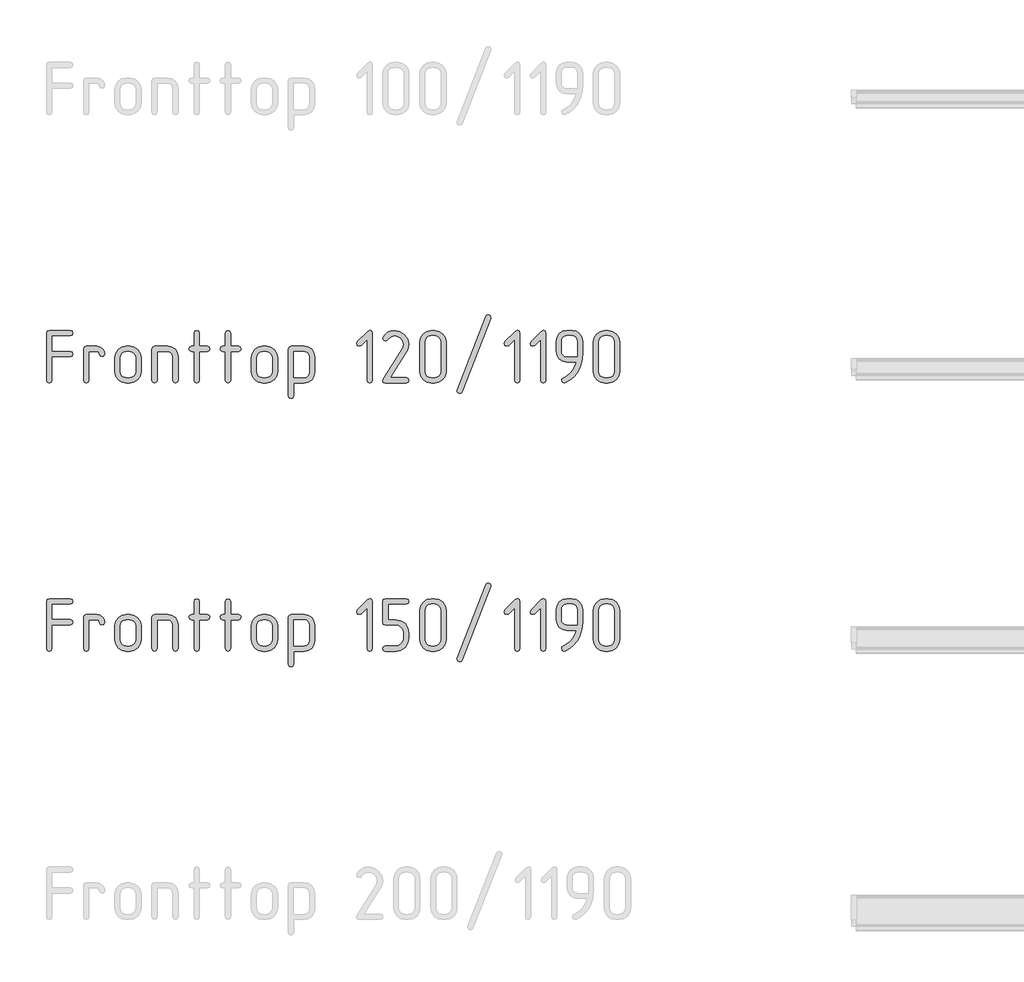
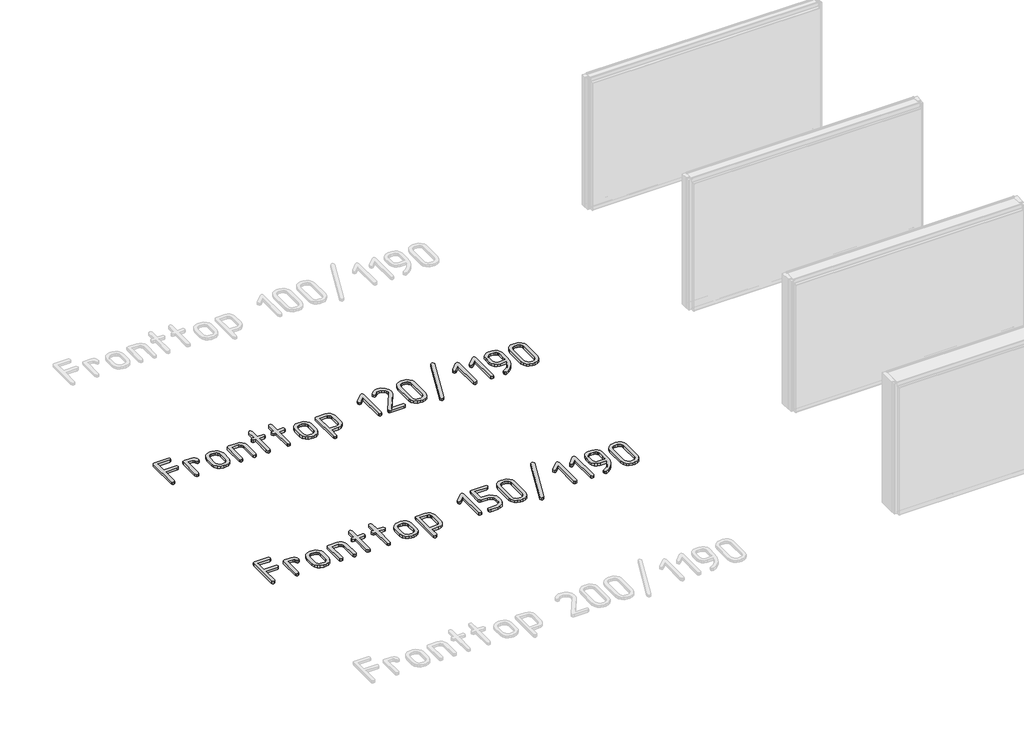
# One storey, part 15 of 37: 2 proxies.
"""IFC4 building model written with IfcOpenShell, lengths in millimetres."""

from ifc_helpers import new_model, si_unit, origin, origin_with_axes, place, context, project, spatial, polyline, outline, extrude, element, save

model = new_model("IFC4")

# Units and contexts
model_context = context("Model", 3, world=origin())
ifc_project = project(units=[si_unit("LENGTHUNIT", "METRE", prefix="MILLI")], contexts=[model_context])

# Site, building, storey
site = spatial("IfcSite", under=ifc_project)
building = spatial("IfcBuilding", under=site)
storey = spatial("IfcBuildingStorey", under=building, Name="Этаж 01", Elevation=0.0)

# Proxies
placement = place(None, origin())
element("IfcBuildingElementProxy", 1, Name="300 мм ГОСТ 2.304", ObjectType="300 мм ГОСТ 2.304", at=placement, inside=storey, context=model_context, shape_type="SweptSolid", body=[
    extrude(outline(polyline([(56161.9989869, -26551.9738322), (56264.4173344, -26551.9738322), (56275.3434297, -26556.0573223), (56278.9854614, -26566.5419592), (56275.1227005, -26577.0633842), (56264.4173344, -26581.5515446), (56161.9989869, -26581.5515446), (56161.9989869, -26713.5476044), (56157.9154968, -26724.4736997), (56147.4308599, -26728.1157314), (56136.9094349, -26724.2529705), (56132.4212745, -26713.5476044), (56132.4212745, -26449.9969431), (56136.1736709, -26438.739754), (56147.4308599, -26434.9873577), (56264.4173344, -26434.9873577), (56275.3434297, -26439.291577), (56278.9854614, -26449.9969431), (56275.1227005, -26460.0769098), (56264.4173344, -26464.5650701), (56161.9989869, -26464.5650701), (56161.9989869, -26551.9738322)])), origin_with_axes(), (0.0, 0.0, 1.0), 20.0),
    extrude(outline(polyline([(56457.0403471, -26566.9834176), (56452.9568569, -26577.9095128), (56442.4722201, -26581.5515446), (56431.950795, -26577.6887836), (56427.4626347, -26566.9834176), (56423.3791445, -26556.7195099), (56412.8945077, -26552.4152905), (56369.1901266, -26552.4152905), (56369.1901266, -26713.5476044), (56365.1066365, -26724.4736997), (56354.6219996, -26728.1157314), (56344.1005746, -26724.2529705), (56339.6124142, -26713.5476044), (56339.6124142, -26537.8471635), (56343.3648106, -26526.9210683), (56354.6219996, -26523.2790365), (56412.8945077, -26523.2790365), (56430.0378086, -26526.7003391), (56444.2012654, -26536.1181182), (56453.6190445, -26550.0608458), (56457.0403471, -26566.9834176)])), origin_with_axes(), (0.0, 0.0, 1.0), 20.0),
    extrude(outline(polyline([(56660.405514, -26663.8099587), (56655.6966245, -26688.7891462), (56641.5699559, -26709.7216317), (56620.9685641, -26723.5172065), (56596.0997413, -26728.1157314), (56578.5149819, -26728.1157314), (56553.5909767, -26723.5172065), (56532.6768853, -26709.7216317), (56518.5502167, -26688.7891462), (56513.8413271, -26663.8099587), (56513.8413271, -26587.5848093), (56518.5502167, -26562.9367156), (56532.6768853, -26542.1145947), (56553.9956469, -26527.9879261), (56578.5149819, -26523.2790365), (56596.0997413, -26523.2790365), (56620.7386379, -26527.9971231), (56641.5331677, -26542.1513829), (56655.6874274, -26562.9459127), (56660.405514, -26587.5848093), (56660.405514, -26663.8099587)]), holes=[polyline([(56631.26926, -26663.8099587), (56631.26926, -26587.5848093), (56628.694086, -26574.0835401), (56620.9685641, -26562.7159864), (56609.6010105, -26554.9904645), (56596.0997413, -26552.4152905), (56578.5149819, -26552.4152905), (56565.0229097, -26554.9904645), (56553.6829472, -26562.7159864), (56545.9850165, -26574.0835401), (56543.4190395, -26587.5848093), (56543.4190395, -26663.8099587), (56545.9850165, -26677.3112279), (56553.6829472, -26688.6787816), (56565.0229097, -26696.4043035), (56578.5149819, -26698.9794774), (56596.0997413, -26698.9794774), (56609.6010105, -26696.4043035), (56620.9685641, -26688.6787816), (56628.694086, -26677.3112279), (56631.26926, -26663.8099587)])]), origin_with_axes(), (0.0, 0.0, 1.0), 20.0),
    extrude(outline(polyline([(56867.5966537, -26713.5476044), (56863.5131635, -26724.4736997), (56853.0285267, -26728.1157314), (56842.7278308, -26724.2529705), (56838.4603997, -26713.5476044), (56838.4603997, -26581.5515446), (56836.3174871, -26570.4139172), (56829.8887492, -26560.986941), (56820.3514085, -26554.5582032), (56808.8826873, -26552.4152905), (56750.6101792, -26552.4152905), (56750.6101792, -26713.5476044), (56746.5266891, -26724.4736997), (56736.0420522, -26728.1157314), (56725.5206272, -26724.2529705), (56721.0324668, -26713.5476044), (56721.0324668, -26537.8471635), (56724.7848632, -26526.9210683), (56736.0420522, -26523.2790365), (56808.8826873, -26523.2790365), (56831.7097651, -26527.4544972), (56850.4533527, -26539.9808791), (56863.3108285, -26558.945196), (56867.5966537, -26581.5515446), (56867.5966537, -26713.5476044)])), origin_with_axes(), (0.0, 0.0, 1.0), 20.0),
    extrude(outline(polyline([(56986.9375729, -26523.2790365), (57031.0834124, -26523.2790365), (57042.0095076, -26527.3625267), (57045.6515394, -26537.8471635), (57041.7887784, -26547.9271302), (57031.0834124, -26552.4152905), (56986.9375729, -26552.4152905), (56986.9375729, -26713.5476044), (56982.8540828, -26724.4736997), (56972.3694459, -26728.1157314), (56962.0687501, -26724.2529705), (56957.8013189, -26713.5476044), (56957.8013189, -26552.4152905), (56943.2331919, -26552.4152905), (56932.3070966, -26548.1478594), (56928.2236065, -26537.8471635), (56932.0863675, -26527.5832559), (56943.2331919, -26523.2790365), (56957.8013189, -26523.2790365), (56957.8013189, -26449.9969431), (56962.0687501, -26439.0708478), (56972.3694459, -26434.9873577), (56982.6333536, -26438.8501186), (56986.9375729, -26449.9969431), (56986.9375729, -26523.2790365)])), origin_with_axes(), (0.0, 0.0, 1.0), 20.0),
    extrude(outline(polyline([(57161.1664858, -26523.2790365), (57205.3123253, -26523.2790365), (57216.2384205, -26527.3625267), (57219.8804523, -26537.8471635), (57216.0176913, -26547.9271302), (57205.3123253, -26552.4152905), (57161.1664858, -26552.4152905), (57161.1664858, -26713.5476044), (57157.0829957, -26724.4736997), (57146.5983588, -26728.1157314), (57136.297663, -26724.2529705), (57132.0302318, -26713.5476044), (57132.0302318, -26552.4152905), (57117.4621048, -26552.4152905), (57106.5360096, -26548.1478594), (57102.4525194, -26537.8471635), (57106.3152804, -26527.5832559), (57117.4621048, -26523.2790365), (57132.0302318, -26523.2790365), (57132.0302318, -26449.9969431), (57136.297663, -26439.0708478), (57146.5983588, -26434.9873577), (57156.8622665, -26438.8501186), (57161.1664858, -26449.9969431), (57161.1664858, -26523.2790365)])), origin_with_axes(), (0.0, 0.0, 1.0), 20.0),
    extrude(outline(polyline([(57423.2456192, -26663.8099587), (57418.5367297, -26688.7891462), (57404.4100611, -26709.7216317), (57383.8086693, -26723.5172065), (57358.9398465, -26728.1157314), (57341.3550871, -26728.1157314), (57316.4310819, -26723.5172065), (57295.5169905, -26709.7216317), (57281.3903219, -26688.7891462), (57276.6814323, -26663.8099587), (57276.6814323, -26587.5848093), (57281.3903219, -26562.9367156), (57295.5169905, -26542.1145947), (57316.8357521, -26527.9879261), (57341.3550871, -26523.2790365), (57358.9398465, -26523.2790365), (57383.5787431, -26527.9971231), (57404.3732729, -26542.1513829), (57418.5275326, -26562.9459127), (57423.2456192, -26587.5848093), (57423.2456192, -26663.8099587)]), holes=[polyline([(57394.1093652, -26663.8099587), (57394.1093652, -26587.5848093), (57391.5341912, -26574.0835401), (57383.8086693, -26562.7159864), (57372.4411157, -26554.9904645), (57358.9398465, -26552.4152905), (57341.3550871, -26552.4152905), (57327.8630149, -26554.9904645), (57316.5230524, -26562.7159864), (57308.8251217, -26574.0835401), (57306.2591447, -26587.5848093), (57306.2591447, -26663.8099587), (57308.8251217, -26677.3112279), (57316.5230524, -26688.6787816), (57327.8630149, -26696.4043035), (57341.3550871, -26698.9794774), (57358.9398465, -26698.9794774), (57372.4411157, -26696.4043035), (57383.8086693, -26688.6787816), (57391.5341912, -26677.3112279), (57394.1093652, -26663.8099587)])]), origin_with_axes(), (0.0, 0.0, 1.0), 20.0),
    extrude(outline(polyline([(57513.4502844, -26728.1157314), (57513.4502844, -26801.3978249), (57509.3667943, -26812.3239201), (57498.8821574, -26815.9659519), (57488.3607324, -26812.1031909), (57483.872572, -26801.3978249), (57483.872572, -26537.8471635), (57487.6249684, -26526.9210683), (57498.8821574, -26523.2790365), (57571.7227925, -26523.2790365), (57594.5498703, -26527.4544972), (57613.2934579, -26539.9808791), (57626.1509337, -26558.945196), (57630.4367589, -26581.5515446), (57630.4367589, -26669.401765), (57626.1509337, -26692.3392074), (57613.2934579, -26711.4138889), (57594.5498703, -26723.9402708), (57571.7227925, -26728.1157314), (57513.4502844, -26728.1157314)]), holes=[polyline([(57513.4502844, -26698.9794774), (57571.7227925, -26698.9794774), (57583.1915137, -26696.8365648), (57592.7288544, -26690.4078269), (57599.1575923, -26680.8704862), (57601.3005049, -26669.401765), (57601.3005049, -26581.5515446), (57599.1575923, -26570.4139172), (57592.7288544, -26560.986941), (57583.1915137, -26554.5582032), (57571.7227925, -26552.4152905), (57513.4502844, -26552.4152905), (57513.4502844, -26698.9794774)])]), origin_with_axes(), (0.0, 0.0, 1.0), 20.0),
    extrude(outline(polyline([(57953.1428451, -26713.5476044), (57949.0593549, -26724.4736997), (57938.5747181, -26728.1157314), (57928.4947514, -26724.2529705), (57924.006591, -26713.5476044), (57924.006591, -26485.1664618), (57890.1614475, -26518.570147), (57880.30221, -26523.2790365), (57869.780785, -26518.7908762), (57865.2926246, -26508.2694511), (57870.0015142, -26498.0423317), (57928.2740222, -26439.6962472), (57941.149892, -26433.2951005), (57949.7215425, -26437.5993199), (57953.1428451, -26449.9969431), (57953.1428451, -26713.5476044)])), origin_with_axes(), (0.0, 0.0, 1.0), 20.0),
    extrude(outline(polyline([(58147.0902329, -26548.1478594), (58052.3974074, -26698.9794774), (58143.2642602, -26698.9794774), (58154.1903554, -26703.0629676), (58157.8323872, -26713.5476044), (58153.9696262, -26723.6275711), (58143.2642602, -26728.1157314), (58026.2777857, -26728.1157314), (58014.3584091, -26725.2278578), (58010.3852835, -26716.5642368), (58013.8433743, -26705.3806241), (58121.8535281, -26533.138274), (58127.371758, -26511.2860835), (58123.7297262, -26493.1862893), (58112.803631, -26478.3238567), (58096.3041235, -26468.0047668), (58076.8247718, -26464.5650701), (58054.9725813, -26470.5615466), (58038.2707387, -26486.858719), (58033.3595141, -26491.9906728), (58026.2777857, -26493.7013241), (58015.9770898, -26489.6546222), (58011.2682003, -26479.5746555), (58013.8433743, -26471.4076752), (58025.6339922, -26456.6923954), (58040.4044543, -26445.0673244), (58057.1062969, -26437.5073494), (58074.6910563, -26434.9873577), (58106.0713905, -26440.7814991), (58132.5221059, -26458.1639234), (58150.5115355, -26483.0327463), (58156.508012, -26512.1690003), (58154.1535672, -26530.5814941), (58147.0902329, -26548.1478594)])), origin_with_axes(), (0.0, 0.0, 1.0), 20.0),
    extrude(outline(polyline([(58365.0235269, -26663.8099587), (58360.3146373, -26688.7891462), (58346.1879687, -26709.7216317), (58325.586577, -26723.5172065), (58300.7177541, -26728.1157314), (58283.1329947, -26728.1157314), (58258.2089896, -26723.5172065), (58237.2948981, -26709.7216317), (58223.1682295, -26688.7891462), (58218.45934, -26663.8099587), (58218.45934, -26499.7345888), (58223.1682295, -26475.0864952), (58237.2948981, -26454.2643742), (58258.3929306, -26439.8066118), (58283.1329947, -26434.9873577), (58300.7177541, -26434.9873577), (58325.3566507, -26439.7054443), (58346.1511805, -26453.859704), (58360.3054403, -26474.7645984), (58365.0235269, -26499.7345888), (58365.0235269, -26663.8099587)]), holes=[polyline([(58335.8872728, -26663.8099587), (58335.8872728, -26499.7345888), (58333.3120989, -26486.2333196), (58325.586577, -26474.865766), (58314.2190233, -26467.1402441), (58300.7177541, -26464.5650701), (58283.1329947, -26464.5650701), (58269.6409226, -26467.1402441), (58258.3009601, -26474.865766), (58250.6030293, -26486.2333196), (58248.0370524, -26499.7345888), (58248.0370524, -26663.8099587), (58250.6030293, -26677.3112279), (58258.3009601, -26688.6787816), (58269.6409226, -26696.4043035), (58283.1329947, -26698.9794774), (58300.7177541, -26698.9794774), (58314.2190233, -26696.4043035), (58325.586577, -26688.6787816), (58333.3120989, -26677.3112279), (58335.8872728, -26663.8099587)])]), origin_with_axes(), (0.0, 0.0, 1.0), 20.0),
    extrude(outline(polyline([(58615.4775892, -26367.2970706), (58454.3452753, -26777.4119188), (58448.7902572, -26784.2545239), (58441.1015235, -26786.8296979), (58430.3593692, -26782.7462077), (58425.6504797, -26772.2615709), (58426.5333965, -26766.6697645), (58587.6657103, -26356.6284927), (58593.2207285, -26349.7123112), (58600.9094622, -26347.1371372), (58611.6516164, -26351.4413566), (58616.360506, -26361.7052642), (58615.4775892, -26367.2970706)])), origin_with_axes(), (0.0, 0.0, 1.0), 20.0),
    extrude(outline(polyline([(58777.1985143, -26713.5476044), (58773.1150241, -26724.4736997), (58762.6303873, -26728.1157314), (58752.5504206, -26724.2529705), (58748.0622602, -26713.5476044), (58748.0622602, -26485.1664618), (58714.2171167, -26518.570147), (58704.3578792, -26523.2790365), (58693.8364542, -26518.7908762), (58689.3482938, -26508.2694511), (58694.0571833, -26498.0423317), (58752.3296914, -26439.6962472), (58765.2055612, -26433.2951005), (58773.7772117, -26437.5993199), (58777.1985143, -26449.9969431), (58777.1985143, -26713.5476044)])), origin_with_axes(), (0.0, 0.0, 1.0), 20.0),
    extrude(outline(polyline([(58923.1740899, -26713.5476044), (58919.0905998, -26724.4736997), (58908.6059629, -26728.1157314), (58898.5259963, -26724.2529705), (58894.0378359, -26713.5476044), (58894.0378359, -26485.1664618), (58860.1926924, -26518.570147), (58850.3334549, -26523.2790365), (58839.8120298, -26518.7908762), (58835.3238695, -26508.2694511), (58840.032759, -26498.0423317), (58898.3052671, -26439.6962472), (58911.1811369, -26433.2951005), (58919.7527874, -26437.5993199), (58923.1740899, -26449.9969431), (58923.1740899, -26713.5476044)])), origin_with_axes(), (0.0, 0.0, 1.0), 20.0),
    extrude(outline(polyline([(59093.1355717, -26611.129257), (59040.0134116, -26611.129257), (59017.407063, -26606.8434317), (58998.4427462, -26593.985956), (58985.5852704, -26575.0216391), (58981.2994452, -26552.4152905), (58981.2994452, -26493.7013241), (58985.5852704, -26471.0949755), (58998.4427462, -26452.1306587), (59017.407063, -26439.2731829), (59040.0134116, -26434.9873577), (59069.1496656, -26434.9873577), (59091.9767434, -26439.2731829), (59110.7203311, -26452.1306587), (59123.5778068, -26471.0949755), (59127.8636321, -26493.7013241), (59127.8636321, -26566.5419592), (59124.0008711, -26607.818319), (59112.4125883, -26645.8573173), (59098.4422695, -26671.7378157), (59079.6343025, -26694.4913171), (59056.871604, -26713.1797224), (59031.0370909, -26726.8649327), (59025.0038262, -26728.1157314), (59014.9606477, -26723.4068419), (59010.8771576, -26712.6646876), (59013.0108732, -26705.1966831), (59019.8534783, -26699.8623942), (59040.7491756, -26688.8995108), (59058.8489698, -26674.1106546), (59073.7297965, -26655.8085253), (59084.9685914, -26634.3058227), (59089.309599, -26622.938269), (59093.1355717, -26611.129257)]), holes=[polyline([(59097.8444613, -26581.1468744), (59098.0651905, -26576.2172556), (59098.5066488, -26564.8864902), (59098.727378, -26539.9808791), (59098.727378, -26493.7013241), (59096.5844654, -26482.2877852), (59090.1557276, -26472.9159914), (59080.6183868, -26466.6528004), (59069.1496656, -26464.5650701), (59040.0134116, -26464.5650701), (59028.5998727, -26466.6528004), (59019.2280789, -26472.9159914), (59012.9648879, -26482.2877852), (59010.8771576, -26493.7013241), (59010.8771576, -26552.4152905), (59012.9648879, -26563.8288294), (59019.2280789, -26573.2006233), (59028.5998727, -26579.4638142), (59040.0134116, -26581.5515446), (59097.8444613, -26581.1468744)])]), origin_with_axes(), (0.0, 0.0, 1.0), 20.0),
    extrude(outline(polyline([(59335.0547717, -26663.8099587), (59330.3458822, -26688.7891462), (59316.2192136, -26709.7216317), (59295.6178219, -26723.5172065), (59270.748999, -26728.1157314), (59253.1642396, -26728.1157314), (59228.2402344, -26723.5172065), (59207.326143, -26709.7216317), (59193.1994744, -26688.7891462), (59188.4905849, -26663.8099587), (59188.4905849, -26499.7345888), (59193.1994744, -26475.0864952), (59207.326143, -26454.2643742), (59228.4241754, -26439.8066118), (59253.1642396, -26434.9873577), (59270.748999, -26434.9873577), (59295.3878956, -26439.7054443), (59316.1824254, -26453.859704), (59330.3366852, -26474.7645984), (59335.0547717, -26499.7345888), (59335.0547717, -26663.8099587)]), holes=[polyline([(59305.9185177, -26663.8099587), (59305.9185177, -26499.7345888), (59303.3433438, -26486.2333196), (59295.6178219, -26474.865766), (59284.2502682, -26467.1402441), (59270.748999, -26464.5650701), (59253.1642396, -26464.5650701), (59239.6721674, -26467.1402441), (59228.3322049, -26474.865766), (59220.6342742, -26486.2333196), (59218.0682973, -26499.7345888), (59218.0682973, -26663.8099587), (59220.6342742, -26677.3112279), (59228.3322049, -26688.6787816), (59239.6721674, -26696.4043035), (59253.1642396, -26698.9794774), (59270.748999, -26698.9794774), (59284.2502682, -26696.4043035), (59295.6178219, -26688.6787816), (59303.3433438, -26677.3112279), (59305.9185177, -26663.8099587)])]), origin_with_axes(), (0.0, 0.0, 1.0), 20.0),
])
element("IfcBuildingElementProxy", 2, Name="300 мм ГОСТ 2.304", ObjectType="300 мм ГОСТ 2.304", at=placement, inside=storey, context=model_context, shape_type="SweptSolid", body=[
    extrude(outline(polyline([(56161.9989869, -28051.9738322), (56264.4173344, -28051.9738322), (56275.3434297, -28056.0573223), (56278.9854614, -28066.5419592), (56275.1227005, -28077.0633842), (56264.4173344, -28081.5515446), (56161.9989869, -28081.5515446), (56161.9989869, -28213.5476044), (56157.9154968, -28224.4736997), (56147.4308599, -28228.1157314), (56136.9094349, -28224.2529705), (56132.4212745, -28213.5476044), (56132.4212745, -27949.9969431), (56136.1736709, -27938.739754), (56147.4308599, -27934.9873577), (56264.4173344, -27934.9873577), (56275.3434297, -27939.291577), (56278.9854614, -27949.9969431), (56275.1227005, -27960.0769098), (56264.4173344, -27964.5650701), (56161.9989869, -27964.5650701), (56161.9989869, -28051.9738322)])), origin_with_axes(), (0.0, 0.0, 1.0), 20.0),
    extrude(outline(polyline([(56457.0403471, -28066.9834176), (56452.9568569, -28077.9095128), (56442.4722201, -28081.5515446), (56431.950795, -28077.6887836), (56427.4626347, -28066.9834176), (56423.3791445, -28056.7195099), (56412.8945077, -28052.4152905), (56369.1901266, -28052.4152905), (56369.1901266, -28213.5476044), (56365.1066365, -28224.4736997), (56354.6219996, -28228.1157314), (56344.1005746, -28224.2529705), (56339.6124142, -28213.5476044), (56339.6124142, -28037.8471635), (56343.3648106, -28026.9210683), (56354.6219996, -28023.2790365), (56412.8945077, -28023.2790365), (56430.0378086, -28026.7003391), (56444.2012654, -28036.1181182), (56453.6190445, -28050.0608458), (56457.0403471, -28066.9834176)])), origin_with_axes(), (0.0, 0.0, 1.0), 20.0),
    extrude(outline(polyline([(56660.405514, -28163.8099587), (56655.6966245, -28188.7891462), (56641.5699559, -28209.7216317), (56620.9685641, -28223.5172065), (56596.0997413, -28228.1157314), (56578.5149819, -28228.1157314), (56553.5909767, -28223.5172065), (56532.6768853, -28209.7216317), (56518.5502167, -28188.7891462), (56513.8413271, -28163.8099587), (56513.8413271, -28087.5848093), (56518.5502167, -28062.9367156), (56532.6768853, -28042.1145947), (56553.9956469, -28027.9879261), (56578.5149819, -28023.2790365), (56596.0997413, -28023.2790365), (56620.7386379, -28027.9971231), (56641.5331677, -28042.1513829), (56655.6874274, -28062.9459127), (56660.405514, -28087.5848093), (56660.405514, -28163.8099587)]), holes=[polyline([(56631.26926, -28163.8099587), (56631.26926, -28087.5848093), (56628.694086, -28074.0835401), (56620.9685641, -28062.7159864), (56609.6010105, -28054.9904645), (56596.0997413, -28052.4152905), (56578.5149819, -28052.4152905), (56565.0229097, -28054.9904645), (56553.6829472, -28062.7159864), (56545.9850165, -28074.0835401), (56543.4190395, -28087.5848093), (56543.4190395, -28163.8099587), (56545.9850165, -28177.3112279), (56553.6829472, -28188.6787816), (56565.0229097, -28196.4043035), (56578.5149819, -28198.9794774), (56596.0997413, -28198.9794774), (56609.6010105, -28196.4043035), (56620.9685641, -28188.6787816), (56628.694086, -28177.3112279), (56631.26926, -28163.8099587)])]), origin_with_axes(), (0.0, 0.0, 1.0), 20.0),
    extrude(outline(polyline([(56867.5966537, -28213.5476044), (56863.5131635, -28224.4736997), (56853.0285267, -28228.1157314), (56842.7278308, -28224.2529705), (56838.4603997, -28213.5476044), (56838.4603997, -28081.5515446), (56836.3174871, -28070.4139172), (56829.8887492, -28060.986941), (56820.3514085, -28054.5582032), (56808.8826873, -28052.4152905), (56750.6101792, -28052.4152905), (56750.6101792, -28213.5476044), (56746.5266891, -28224.4736997), (56736.0420522, -28228.1157314), (56725.5206272, -28224.2529705), (56721.0324668, -28213.5476044), (56721.0324668, -28037.8471635), (56724.7848632, -28026.9210683), (56736.0420522, -28023.2790365), (56808.8826873, -28023.2790365), (56831.7097651, -28027.4544972), (56850.4533527, -28039.9808791), (56863.3108285, -28058.945196), (56867.5966537, -28081.5515446), (56867.5966537, -28213.5476044)])), origin_with_axes(), (0.0, 0.0, 1.0), 20.0),
    extrude(outline(polyline([(56986.9375729, -28023.2790365), (57031.0834124, -28023.2790365), (57042.0095076, -28027.3625267), (57045.6515394, -28037.8471635), (57041.7887784, -28047.9271302), (57031.0834124, -28052.4152905), (56986.9375729, -28052.4152905), (56986.9375729, -28213.5476044), (56982.8540828, -28224.4736997), (56972.3694459, -28228.1157314), (56962.0687501, -28224.2529705), (56957.8013189, -28213.5476044), (56957.8013189, -28052.4152905), (56943.2331919, -28052.4152905), (56932.3070966, -28048.1478594), (56928.2236065, -28037.8471635), (56932.0863675, -28027.5832559), (56943.2331919, -28023.2790365), (56957.8013189, -28023.2790365), (56957.8013189, -27949.9969431), (56962.0687501, -27939.0708478), (56972.3694459, -27934.9873577), (56982.6333536, -27938.8501186), (56986.9375729, -27949.9969431), (56986.9375729, -28023.2790365)])), origin_with_axes(), (0.0, 0.0, 1.0), 20.0),
    extrude(outline(polyline([(57161.1664858, -28023.2790365), (57205.3123253, -28023.2790365), (57216.2384205, -28027.3625267), (57219.8804523, -28037.8471635), (57216.0176913, -28047.9271302), (57205.3123253, -28052.4152905), (57161.1664858, -28052.4152905), (57161.1664858, -28213.5476044), (57157.0829957, -28224.4736997), (57146.5983588, -28228.1157314), (57136.297663, -28224.2529705), (57132.0302318, -28213.5476044), (57132.0302318, -28052.4152905), (57117.4621048, -28052.4152905), (57106.5360096, -28048.1478594), (57102.4525194, -28037.8471635), (57106.3152804, -28027.5832559), (57117.4621048, -28023.2790365), (57132.0302318, -28023.2790365), (57132.0302318, -27949.9969431), (57136.297663, -27939.0708478), (57146.5983588, -27934.9873577), (57156.8622665, -27938.8501186), (57161.1664858, -27949.9969431), (57161.1664858, -28023.2790365)])), origin_with_axes(), (0.0, 0.0, 1.0), 20.0),
    extrude(outline(polyline([(57423.2456192, -28163.8099587), (57418.5367297, -28188.7891462), (57404.4100611, -28209.7216317), (57383.8086693, -28223.5172065), (57358.9398465, -28228.1157314), (57341.3550871, -28228.1157314), (57316.4310819, -28223.5172065), (57295.5169905, -28209.7216317), (57281.3903219, -28188.7891462), (57276.6814323, -28163.8099587), (57276.6814323, -28087.5848093), (57281.3903219, -28062.9367156), (57295.5169905, -28042.1145947), (57316.8357521, -28027.9879261), (57341.3550871, -28023.2790365), (57358.9398465, -28023.2790365), (57383.5787431, -28027.9971231), (57404.3732729, -28042.1513829), (57418.5275326, -28062.9459127), (57423.2456192, -28087.5848093), (57423.2456192, -28163.8099587)]), holes=[polyline([(57394.1093652, -28163.8099587), (57394.1093652, -28087.5848093), (57391.5341912, -28074.0835401), (57383.8086693, -28062.7159864), (57372.4411157, -28054.9904645), (57358.9398465, -28052.4152905), (57341.3550871, -28052.4152905), (57327.8630149, -28054.9904645), (57316.5230524, -28062.7159864), (57308.8251217, -28074.0835401), (57306.2591447, -28087.5848093), (57306.2591447, -28163.8099587), (57308.8251217, -28177.3112279), (57316.5230524, -28188.6787816), (57327.8630149, -28196.4043035), (57341.3550871, -28198.9794774), (57358.9398465, -28198.9794774), (57372.4411157, -28196.4043035), (57383.8086693, -28188.6787816), (57391.5341912, -28177.3112279), (57394.1093652, -28163.8099587)])]), origin_with_axes(), (0.0, 0.0, 1.0), 20.0),
    extrude(outline(polyline([(57513.4502844, -28228.1157314), (57513.4502844, -28301.3978249), (57509.3667943, -28312.3239201), (57498.8821574, -28315.9659519), (57488.3607324, -28312.1031909), (57483.872572, -28301.3978249), (57483.872572, -28037.8471635), (57487.6249684, -28026.9210683), (57498.8821574, -28023.2790365), (57571.7227925, -28023.2790365), (57594.5498703, -28027.4544972), (57613.2934579, -28039.9808791), (57626.1509337, -28058.945196), (57630.4367589, -28081.5515446), (57630.4367589, -28169.401765), (57626.1509337, -28192.3392074), (57613.2934579, -28211.4138889), (57594.5498703, -28223.9402708), (57571.7227925, -28228.1157314), (57513.4502844, -28228.1157314)]), holes=[polyline([(57513.4502844, -28198.9794774), (57571.7227925, -28198.9794774), (57583.1915137, -28196.8365648), (57592.7288544, -28190.4078269), (57599.1575923, -28180.8704862), (57601.3005049, -28169.401765), (57601.3005049, -28081.5515446), (57599.1575923, -28070.4139172), (57592.7288544, -28060.986941), (57583.1915137, -28054.5582032), (57571.7227925, -28052.4152905), (57513.4502844, -28052.4152905), (57513.4502844, -28198.9794774)])]), origin_with_axes(), (0.0, 0.0, 1.0), 20.0),
    extrude(outline(polyline([(57953.1428451, -28213.5476044), (57949.0593549, -28224.4736997), (57938.5747181, -28228.1157314), (57928.4947514, -28224.2529705), (57924.006591, -28213.5476044), (57924.006591, -27985.1664618), (57890.1614475, -28018.570147), (57880.30221, -28023.2790365), (57869.780785, -28018.7908762), (57865.2926246, -28008.2694511), (57870.0015142, -27998.0423317), (57928.2740222, -27939.6962472), (57941.149892, -27933.2951005), (57949.7215425, -27937.5993199), (57953.1428451, -27949.9969431), (57953.1428451, -28213.5476044)])), origin_with_axes(), (0.0, 0.0, 1.0), 20.0),
    extrude(outline(polyline([(58040.8459127, -27964.5650701), (58040.8459127, -28052.4152905), (58084.5502937, -28052.4152905), (58112.7024634, -28057.7771706), (58136.3848669, -28073.8628109), (58152.4705071, -28097.5452143), (58157.8323872, -28125.697384), (58157.8323872, -28154.833638), (58152.4705071, -28183.0317929), (58136.3848669, -28206.7049993), (58112.7024634, -28222.7630484), (58084.5502937, -28228.1157314), (58026.2777857, -28228.1157314), (58015.3516904, -28223.8483003), (58011.2682003, -28213.5476044), (58015.1309613, -28203.2469086), (58026.2777857, -28198.9794774), (58084.5502937, -28198.9794774), (58101.6935947, -28195.5581749), (58115.8570515, -28185.9196666), (58125.2748306, -28171.7562098), (58128.6961332, -28154.833638), (58128.6961332, -28125.697384), (58125.2748306, -28108.554083), (58115.8570515, -28094.3906262), (58101.6935947, -28084.9728471), (58084.5502937, -28081.5515446), (58026.2777857, -28081.5515446), (58015.0205967, -28077.9095128), (58011.2682003, -28066.9834176), (58011.2682003, -27949.9969431), (58015.0205967, -27938.739754), (58026.2777857, -27934.9873577), (58143.2642602, -27934.9873577), (58154.1903554, -27939.291577), (58157.8323872, -27949.9969431), (58153.9696262, -27960.0769098), (58143.2642602, -27964.5650701), (58040.8459127, -27964.5650701)])), origin_with_axes(), (0.0, 0.0, 1.0), 20.0),
    extrude(outline(polyline([(58365.0235269, -28163.8099587), (58360.3146373, -28188.7891462), (58346.1879687, -28209.7216317), (58325.586577, -28223.5172065), (58300.7177541, -28228.1157314), (58283.1329947, -28228.1157314), (58258.2089896, -28223.5172065), (58237.2948981, -28209.7216317), (58223.1682295, -28188.7891462), (58218.45934, -28163.8099587), (58218.45934, -27999.7345888), (58223.1682295, -27975.0864952), (58237.2948981, -27954.2643742), (58258.3929306, -27939.8066118), (58283.1329947, -27934.9873577), (58300.7177541, -27934.9873577), (58325.3566507, -27939.7054443), (58346.1511805, -27953.859704), (58360.3054403, -27974.7645984), (58365.0235269, -27999.7345888), (58365.0235269, -28163.8099587)]), holes=[polyline([(58335.8872728, -28163.8099587), (58335.8872728, -27999.7345888), (58333.3120989, -27986.2333196), (58325.586577, -27974.865766), (58314.2190233, -27967.1402441), (58300.7177541, -27964.5650701), (58283.1329947, -27964.5650701), (58269.6409226, -27967.1402441), (58258.3009601, -27974.865766), (58250.6030293, -27986.2333196), (58248.0370524, -27999.7345888), (58248.0370524, -28163.8099587), (58250.6030293, -28177.3112279), (58258.3009601, -28188.6787816), (58269.6409226, -28196.4043035), (58283.1329947, -28198.9794774), (58300.7177541, -28198.9794774), (58314.2190233, -28196.4043035), (58325.586577, -28188.6787816), (58333.3120989, -28177.3112279), (58335.8872728, -28163.8099587)])]), origin_with_axes(), (0.0, 0.0, 1.0), 20.0),
    extrude(outline(polyline([(58615.4775892, -27867.2970706), (58454.3452753, -28277.4119188), (58448.7902572, -28284.2545239), (58441.1015235, -28286.8296979), (58430.3593692, -28282.7462077), (58425.6504797, -28272.2615709), (58426.5333965, -28266.6697645), (58587.6657103, -27856.6284927), (58593.2207285, -27849.7123112), (58600.9094622, -27847.1371372), (58611.6516164, -27851.4413566), (58616.360506, -27861.7052642), (58615.4775892, -27867.2970706)])), origin_with_axes(), (0.0, 0.0, 1.0), 20.0),
    extrude(outline(polyline([(58777.1985143, -28213.5476044), (58773.1150241, -28224.4736997), (58762.6303873, -28228.1157314), (58752.5504206, -28224.2529705), (58748.0622602, -28213.5476044), (58748.0622602, -27985.1664618), (58714.2171167, -28018.570147), (58704.3578792, -28023.2790365), (58693.8364542, -28018.7908762), (58689.3482938, -28008.2694511), (58694.0571833, -27998.0423317), (58752.3296914, -27939.6962472), (58765.2055612, -27933.2951005), (58773.7772117, -27937.5993199), (58777.1985143, -27949.9969431), (58777.1985143, -28213.5476044)])), origin_with_axes(), (0.0, 0.0, 1.0), 20.0),
    extrude(outline(polyline([(58923.1740899, -28213.5476044), (58919.0905998, -28224.4736997), (58908.6059629, -28228.1157314), (58898.5259963, -28224.2529705), (58894.0378359, -28213.5476044), (58894.0378359, -27985.1664618), (58860.1926924, -28018.570147), (58850.3334549, -28023.2790365), (58839.8120298, -28018.7908762), (58835.3238695, -28008.2694511), (58840.032759, -27998.0423317), (58898.3052671, -27939.6962472), (58911.1811369, -27933.2951005), (58919.7527874, -27937.5993199), (58923.1740899, -27949.9969431), (58923.1740899, -28213.5476044)])), origin_with_axes(), (0.0, 0.0, 1.0), 20.0),
    extrude(outline(polyline([(59093.1355717, -28111.129257), (59040.0134116, -28111.129257), (59017.407063, -28106.8434317), (58998.4427462, -28093.985956), (58985.5852704, -28075.0216391), (58981.2994452, -28052.4152905), (58981.2994452, -27993.7013241), (58985.5852704, -27971.0949755), (58998.4427462, -27952.1306587), (59017.407063, -27939.2731829), (59040.0134116, -27934.9873577), (59069.1496656, -27934.9873577), (59091.9767434, -27939.2731829), (59110.7203311, -27952.1306587), (59123.5778068, -27971.0949755), (59127.8636321, -27993.7013241), (59127.8636321, -28066.5419592), (59124.0008711, -28107.818319), (59112.4125883, -28145.8573173), (59098.4422695, -28171.7378157), (59079.6343025, -28194.4913171), (59056.871604, -28213.1797224), (59031.0370909, -28226.8649327), (59025.0038262, -28228.1157314), (59014.9606477, -28223.4068419), (59010.8771576, -28212.6646876), (59013.0108732, -28205.1966831), (59019.8534783, -28199.8623942), (59040.7491756, -28188.8995108), (59058.8489698, -28174.1106546), (59073.7297965, -28155.8085253), (59084.9685914, -28134.3058227), (59089.309599, -28122.938269), (59093.1355717, -28111.129257)]), holes=[polyline([(59097.8444613, -28081.1468744), (59098.0651905, -28076.2172556), (59098.5066488, -28064.8864902), (59098.727378, -28039.9808791), (59098.727378, -27993.7013241), (59096.5844654, -27982.2877852), (59090.1557276, -27972.9159914), (59080.6183868, -27966.6528004), (59069.1496656, -27964.5650701), (59040.0134116, -27964.5650701), (59028.5998727, -27966.6528004), (59019.2280789, -27972.9159914), (59012.9648879, -27982.2877852), (59010.8771576, -27993.7013241), (59010.8771576, -28052.4152905), (59012.9648879, -28063.8288294), (59019.2280789, -28073.2006233), (59028.5998727, -28079.4638142), (59040.0134116, -28081.5515446), (59097.8444613, -28081.1468744)])]), origin_with_axes(), (0.0, 0.0, 1.0), 20.0),
    extrude(outline(polyline([(59335.0547717, -28163.8099587), (59330.3458822, -28188.7891462), (59316.2192136, -28209.7216317), (59295.6178219, -28223.5172065), (59270.748999, -28228.1157314), (59253.1642396, -28228.1157314), (59228.2402344, -28223.5172065), (59207.326143, -28209.7216317), (59193.1994744, -28188.7891462), (59188.4905849, -28163.8099587), (59188.4905849, -27999.7345888), (59193.1994744, -27975.0864952), (59207.326143, -27954.2643742), (59228.4241754, -27939.8066118), (59253.1642396, -27934.9873577), (59270.748999, -27934.9873577), (59295.3878956, -27939.7054443), (59316.1824254, -27953.859704), (59330.3366852, -27974.7645984), (59335.0547717, -27999.7345888), (59335.0547717, -28163.8099587)]), holes=[polyline([(59305.9185177, -28163.8099587), (59305.9185177, -27999.7345888), (59303.3433438, -27986.2333196), (59295.6178219, -27974.865766), (59284.2502682, -27967.1402441), (59270.748999, -27964.5650701), (59253.1642396, -27964.5650701), (59239.6721674, -27967.1402441), (59228.3322049, -27974.865766), (59220.6342742, -27986.2333196), (59218.0682973, -27999.7345888), (59218.0682973, -28163.8099587), (59220.6342742, -28177.3112279), (59228.3322049, -28188.6787816), (59239.6721674, -28196.4043035), (59253.1642396, -28198.9794774), (59270.748999, -28198.9794774), (59284.2502682, -28196.4043035), (59295.6178219, -28188.6787816), (59303.3433438, -28177.3112279), (59305.9185177, -28163.8099587)])]), origin_with_axes(), (0.0, 0.0, 1.0), 20.0),
])

save(model, "model.ifc")
